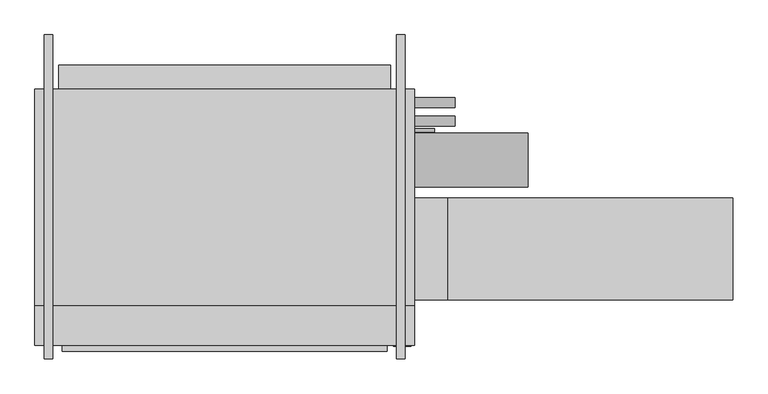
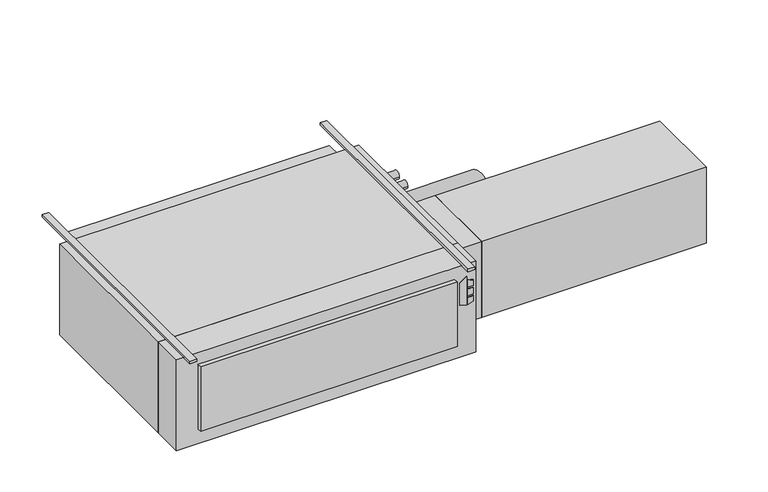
"""IFC4 building model written with IfcOpenShell, lengths in millimetres: proxy geometry."""

from ifc_helpers import new_model, si_unit, point, frame, frame_2d, origin, origin_with_axes, place, context, project, spatial, polyline, circle_curve, trimmed, segment, composite_curve, outline, extrude, source, transform, mapped, element, save


def mechanical_equipment_90fce537(model_context):
    return source(origin(), model_context, "Body", "SweptSolid", [
        extrude(outline(polyline([(-193.2519297, 785.8868862), (-203.2, 818.0602728), (-61.0290756, 818.0602728), (-84.0510817, 785.8868862), (-193.2519297, 785.8868862)])), frame((0.0, -797.052, 0.0), z_axis=(0.0, 1.0, 0.0), x_axis=(0.0, 0.0, 1.0)), (0.0, 0.0, 1.0), 3.175),
        extrude(outline(polyline([(-114.2526443, 824.8186058), (-117.4550368, 850.9), (-88.2261958, 850.9), (-80.1617807, 824.8186058), (-114.2526443, 824.8186058)])), frame((0.0, -797.052, 0.0), z_axis=(0.0, 1.0, 0.0), x_axis=(0.0, 0.0, 1.0)), (0.0, 0.0, 1.0), 3.175),
        extrude(outline(polyline([(-166.1161712, 850.9), (-169.7816721, 824.8186058), (-203.2, 824.8186058), (-194.5657628, 850.9), (-166.1161712, 850.9)])), frame((0.0, -797.052, 0.0), z_axis=(0.0, 1.0, 0.0), x_axis=(0.0, 0.0, 1.0)), (0.0, 0.0, 1.0), 3.175),
        extrude(outline(polyline([(-126.8010097, 850.9), (-124.5191834, 824.8186058), (-160.4567319, 824.8186058), (-157.7154669, 850.9), (-126.8010097, 850.9)])), frame((0.0, -797.052, 0.0), z_axis=(0.0, 1.0, 0.0), x_axis=(0.0, 0.0, 1.0)), (0.0, 0.0, 1.0), 3.175),
        extrude(outline(polyline([(863.6, -793.877), (-558.8, -793.877), (-558.8, -644.525), (863.6, -644.525), (863.6, -793.877)])), frame((0.0, 0.0, -457.2), z_axis=(0.0, 0.0, 1.0), x_axis=(1.0, 0.0, 0.0)), (0.0, 0.0, 1.0), 457.2),
        extrude(outline(polyline([(762.0, -816.229), (-457.2, -816.229), (-457.2, -793.877), (762.0, -793.877), (762.0, -816.229)])), frame((0.0, 0.0, -381.0), z_axis=(0.0, 0.0, 1.0), x_axis=(1.0, 0.0, 0.0)), (0.0, 0.0, 1.0), 323.85),
        extrude(outline(polyline([(2057.4, -241.3), (2057.4, -622.3), (990.6, -622.3), (990.6, -241.3), (2057.4, -241.3)])), frame((0.0, 0.0, -431.8), z_axis=(0.0, 0.0, 1.0), x_axis=(1.0, 0.0, 0.0)), (0.0, 0.0, 1.0), 381.0),
        extrude(outline(polyline([(990.6, -241.3), (990.6, -622.3), (863.6, -622.3), (863.6, -241.3), (990.6, -241.3)])), frame((0.0, 0.0, -431.8), z_axis=(0.0, 0.0, 1.0), x_axis=(1.0, 0.0, 0.0)), (0.0, 0.0, 1.0), 381.0),
        extrude(outline(composite_curve([segment(trimmed(circle_curve(frame_2d((117.475, -171.45)), 19.05), [point((136.525, -171.45))], [point((98.425, -171.45))], False, "CARTESIAN"), True, "CONTINUOUS"), segment(trimmed(circle_curve(frame_2d((117.475, -171.45)), 19.05), [point((98.425, -171.45))], [point((136.525, -171.45))], False, "CARTESIAN"), True, "CONTINUOUS")], self_intersect=False)), frame((863.6, 0.0, 0.0), z_axis=(1.0, 0.0, 0.0), x_axis=(0.0, 1.0, 0.0)), (0.0, 0.0, 1.0), 152.4),
        extrude(outline(composite_curve([segment(trimmed(circle_curve(frame_2d((47.625, -177.8)), 19.05), [point((66.675, -177.8))], [point((28.575, -177.8))], False, "CARTESIAN"), True, "CONTINUOUS"), segment(trimmed(circle_curve(frame_2d((47.625, -177.8)), 19.05), [point((28.575, -177.8))], [point((66.675, -177.8))], False, "CARTESIAN"), True, "CONTINUOUS")], self_intersect=False)), frame((863.6, 0.0, 0.0), z_axis=(1.0, 0.0, 0.0), x_axis=(0.0, 1.0, 0.0)), (0.0, 0.0, 1.0), 152.4),
        extrude(outline(composite_curve([segment(trimmed(circle_curve(frame_2d((-98.4896516, -228.6360165)), 101.6), [point((3.1103484, -228.6360165))], [point((-200.0896516, -228.6360165))], False, "CARTESIAN"), True, "CONTINUOUS"), segment(trimmed(circle_curve(frame_2d((-98.4896516, -228.6360165)), 101.6), [point((-200.0896516, -228.6360165))], [point((3.1103484, -228.6360165))], False, "CARTESIAN"), True, "CONTINUOUS")], self_intersect=False)), frame((863.6, 0.0, 0.0), z_axis=(1.0, 0.0, 0.0), x_axis=(0.0, 1.0, 0.0)), (0.0, 0.0, 1.0), 425.45),
        extrude(outline(composite_curve([segment(trimmed(circle_curve(frame_2d((12.7, -409.575)), 6.35), [point((19.05, -409.575))], [point((6.35, -409.575))], False, "CARTESIAN"), True, "CONTINUOUS"), segment(trimmed(circle_curve(frame_2d((12.7, -409.575)), 6.35), [point((6.35, -409.575))], [point((19.05, -409.575))], False, "CARTESIAN"), True, "CONTINUOUS")], self_intersect=False)), frame((863.6, 0.0, 0.0), z_axis=(1.0, 0.0, 0.0), x_axis=(0.0, 1.0, 0.0)), (0.0, 0.0, 1.0), 76.2),
        extrude(outline(polyline([(863.6, 168.275), (863.6, -644.525), (-558.8, -644.525), (-558.8, 168.275), (863.6, 168.275)])), frame((0.0, 0.0, -457.2), z_axis=(0.0, 0.0, 1.0), x_axis=(1.0, 0.0, 0.0)), (0.0, 0.0, 1.0), 457.2),
        extrude(outline(polyline([(-469.9, 257.175), (774.7, 257.175), (774.7, 168.275), (-469.9, 168.275), (-469.9, 257.175)])), frame((0.0, 0.0, -381.0), z_axis=(0.0, 0.0, 1.0), x_axis=(1.0, 0.0, 0.0)), (0.0, 0.0, 1.0), 355.6),
        extrude(outline(polyline([(-492.125, 371.475), (-492.125, -844.677), (-523.875, -844.677), (-523.875, 371.475), (-492.125, 371.475)])), origin_with_axes(), (0.0, 0.0, 1.0), 12.7),
        extrude(outline(polyline([(828.675, 371.475), (828.675, -844.677), (796.925, -844.677), (796.925, 371.475), (828.675, 371.475)])), origin_with_axes(), (0.0, 0.0, 1.0), 12.7),
    ])


if __name__ == "__main__":
    model = new_model("IFC4")
    model_context = context("Model", 3, world=origin())
    ifc_project = project(units=[si_unit("LENGTHUNIT", "METRE", prefix="MILLI")], contexts=[model_context])
    site = spatial("IfcSite", under=ifc_project)
    building = spatial("IfcBuilding", under=site)
    placement = place(None, origin())
    mechanical_equipment_shape = mechanical_equipment_90fce537(model_context)
    element("IfcBuildingElementProxy", 1, Name="High_Capacity_Horizontal_Cabinet_Fan_Coil_Unit_-_HTY_-_IEC_-_2 Pipe, Elec Heat_WO-Attenuator_RH Side_2022 : Size 20 - 277v/60Hz/1Ph - 8/0 Coil 10.0kW - 8\" AirIn", ObjectType="High_Capacity_Horizontal_Cabinet_Fan_Coil_Unit_-_HTY_-_IEC_-_2 Pipe, Elec Heat_WO-Attenuator_RH Side_2022 : Size 20 - 277v/60Hz/1Ph - 8/0 Coil 10.0kW - 8\" AirIn", at=placement, inside=building, context=model_context, shape_type="MappedRepresentation", body=[
        mapped(mechanical_equipment_shape, transform((0.0, 0.0, 0.0), x_axis=(1.0, 0.0, 0.0), y_axis=(0.0, 1.0, 0.0), z_axis=(0.0, 0.0, 1.0))),
    ])
    save(model, "model.ifc")
